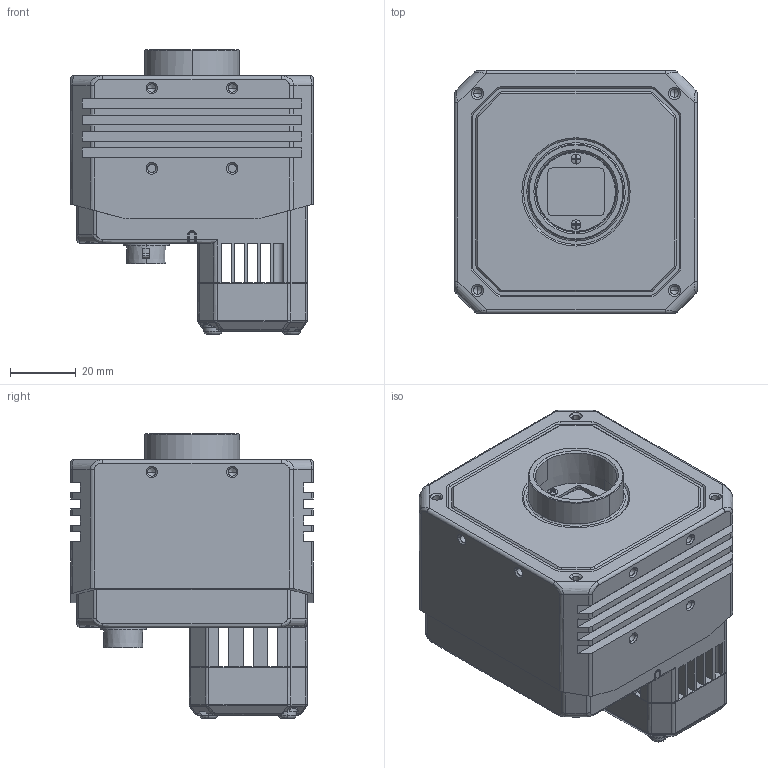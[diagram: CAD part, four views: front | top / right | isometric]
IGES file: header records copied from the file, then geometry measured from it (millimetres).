
Start section:  PTC IGES file: prt0004.igs
Global section: file name: prt0004.igs; native system: Creo Parametric by PTC Inc.; preprocessor: 2020044; author: gengdawei; organization: Unknown; date: 20211123.102829; units: millimetre
Bounding box: 74 x 74 x 86.81 mm (x, y, z)
Volume: 271128 mm3; surface area: 49106.5 mm2
Topology: 2 solids, 18 shells, 1911 faces, 5448 edges, 3569 vertices
Faces by surface type: bspline 1059, revolution 828, extrusion 24
